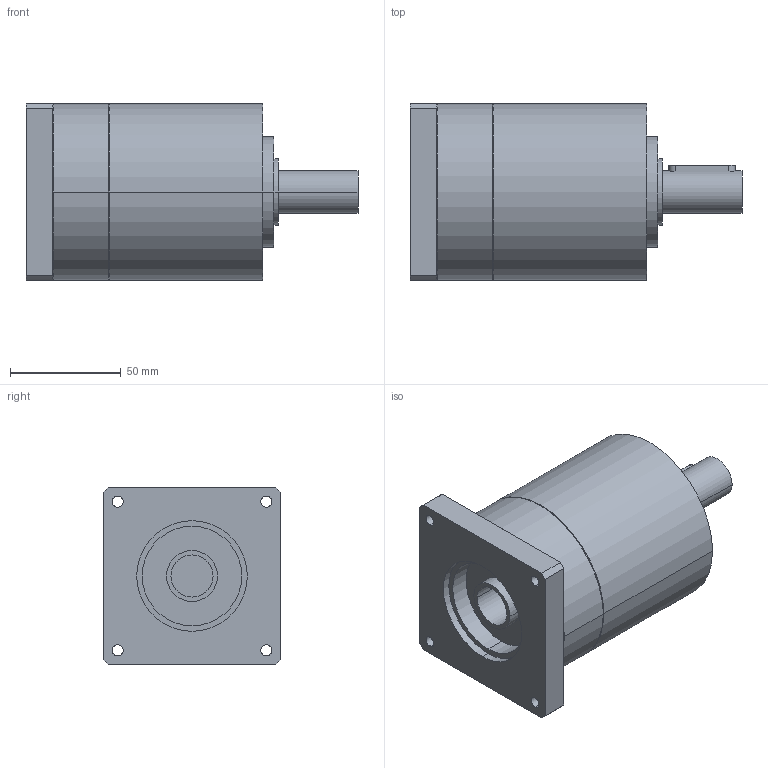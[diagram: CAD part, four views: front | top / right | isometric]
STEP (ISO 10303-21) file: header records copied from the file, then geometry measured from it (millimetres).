
FILE_DESCRIPTION(('CoCreate Modeling STEP Export'),'2;1');
FILE_NAME('GPR100_ig-3-4-5-6_19_B14_19_P21.stp','2014-08-26T10:08:50',(''),(''),'CoCreate Modeling STEP processor for AP214 (Solid Model)','CoCreate Modeling 16.00C 25-Feb-2009 (C) Parametric Technology GmbH','');
FILE_SCHEMA(('AUTOMOTIVE_DESIGN { 1 0 10303 214 1 1 1 1 }'));
Length unit declared in the file: millimetre
Products named in the file (2): GPR100_ig-3-4-5-6_19_B14_19_P21
Assembly tree (1 placements, depth 2):
  GPR100_ig-3-4-5-6_19_B14_19_P21
    GPR100_ig-3-4-5-6_19_B14_19_P21
Bounding box: 150 x 80 x 80 mm (x, y, z)
Volume: 544951.9 mm3; surface area: 50442.5 mm2
Topology: 1 solids, 1 shells, 70 faces, 187 edges, 131 vertices
Faces by surface type: cylinder 42, plane 22, cone 6
Entity records: 1934 total; most frequent: ORIENTED_EDGE 370, CARTESIAN_POINT 359, DIRECTION 262, EDGE_CURVE 185, VERTEX_POINT 131, AXIS2_PLACEMENT_3D 98, EDGE_LOOP 92, FACE_OUTER_BOUND 70
